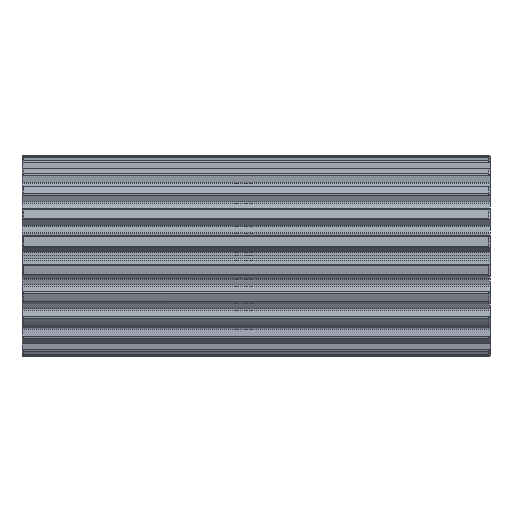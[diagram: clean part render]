
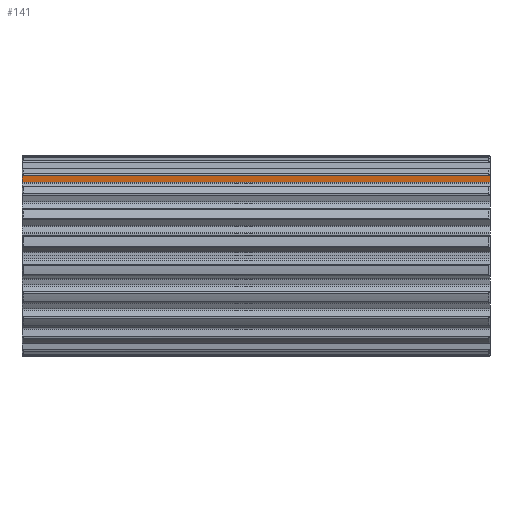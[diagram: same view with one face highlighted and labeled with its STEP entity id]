
A CAD part, top view. The second image highlights one B-rep face of the part: STEP entity #141.
In plain terms, the highlighted planar face has unit normal (0, -0.135, 0.991).
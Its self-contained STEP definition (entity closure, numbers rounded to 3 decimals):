
#141=ADVANCED_FACE('',(#448),#449,.T.);
#448=FACE_OUTER_BOUND('',#930,.T.);
#449=PLANE('',#931);
#930=EDGE_LOOP('',(#1800,#1801,#1802,#1803,#1804,#1805));
#931=AXIS2_PLACEMENT_3D('',#1806,#1807,#1808);
#1800=ORIENTED_EDGE('',*,*,#3493,.T.);
#1801=ORIENTED_EDGE('',*,*,#3661,.F.);
#1802=ORIENTED_EDGE('',*,*,#3662,.T.);
#1803=ORIENTED_EDGE('',*,*,#3663,.T.);
#1804=ORIENTED_EDGE('',*,*,#3664,.T.);
#1805=ORIENTED_EDGE('',*,*,#3659,.F.);
#1806=CARTESIAN_POINT('',(0.0,26.328,19.984));
#1807=DIRECTION('',(0.,-0.134,0.991));
#1808=DIRECTION('',(0.,-0.991,-0.134));
#3493=EDGE_CURVE('',#4274,#4272,#4275,.T.);
#3659=EDGE_CURVE('',#4274,#4579,#4580,.T.);
#3661=EDGE_CURVE('',#4582,#4272,#4583,.T.);
#3662=EDGE_CURVE('',#4582,#4584,#4585,.T.);
#3663=EDGE_CURVE('',#4584,#4586,#4587,.T.);
#3664=EDGE_CURVE('',#4586,#4579,#4588,.T.);
#4272=VERTEX_POINT('',#5716);
#4274=VERTEX_POINT('',#5718);
#4275=(B_SPLINE_CURVE(2,(#5720,#5721,#5722),.UNSPECIFIED.,.F.,.F.)B_SPLINE_CURVE_WITH_KNOTS((3,3),(0.0,0.757),.UNSPECIFIED.)RATIONAL_B_SPLINE_CURVE((1.0,1.,1.0))BOUNDED_CURVE()REPRESENTATION_ITEM('')GEOMETRIC_REPRESENTATION_ITEM()CURVE());
#4579=VERTEX_POINT('',#6681);
#4580=LINE('',#6682,#6683);
#4582=VERTEX_POINT('',#6692);
#4583=LINE('',#6693,#6694);
#4584=VERTEX_POINT('',#6695);
#4585=LINE('',#6696,#6697);
#4586=VERTEX_POINT('',#6698);
#4587=LINE('',#6699,#6700);
#4588=(B_SPLINE_CURVE(2,(#6702,#6703,#6704),.UNSPECIFIED.,.F.,.F.)B_SPLINE_CURVE_WITH_KNOTS((3,3),(0.0,0.757),.UNSPECIFIED.)RATIONAL_B_SPLINE_CURVE((1.0,1.,1.0))BOUNDED_CURVE()REPRESENTATION_ITEM('')GEOMETRIC_REPRESENTATION_ITEM()CURVE());
#5716=CARTESIAN_POINT('',(0.0,27.412,20.131));
#5718=CARTESIAN_POINT('',(0.101,27.526,20.146));
#5720=CARTESIAN_POINT('',(0.5,27.975,20.207));
#5721=CARTESIAN_POINT('',(0.248,27.692,20.169));
#5722=CARTESIAN_POINT('',(0.0,27.412,20.131));
#6681=CARTESIAN_POINT('',(159.899,27.526,20.146));
#6682=CARTESIAN_POINT('',(0.0,27.526,20.146));
#6683=VECTOR('',#8433,1.0);
#6692=CARTESIAN_POINT('',(0.0,25.13,19.821));
#6693=CARTESIAN_POINT('',(0.0,25.13,19.821));
#6694=VECTOR('',#8434,1.);
#6695=CARTESIAN_POINT('',(160.0,25.13,19.821));
#6696=CARTESIAN_POINT('',(0.0,25.13,19.821));
#6697=VECTOR('',#8435,1.0);
#6698=CARTESIAN_POINT('',(160.0,27.412,20.131));
#6699=CARTESIAN_POINT('',(160.0,25.13,19.821));
#6700=VECTOR('',#8436,1.);
#6702=CARTESIAN_POINT('',(160.0,27.412,20.131));
#6703=CARTESIAN_POINT('',(159.752,27.692,20.169));
#6704=CARTESIAN_POINT('',(159.5,27.975,20.207));
#8433=DIRECTION('',(1.0,0.,0.));
#8434=DIRECTION('',(0.,0.991,0.134));
#8435=DIRECTION('',(1.0,0.,0.));
#8436=DIRECTION('',(0.,0.991,0.134));
